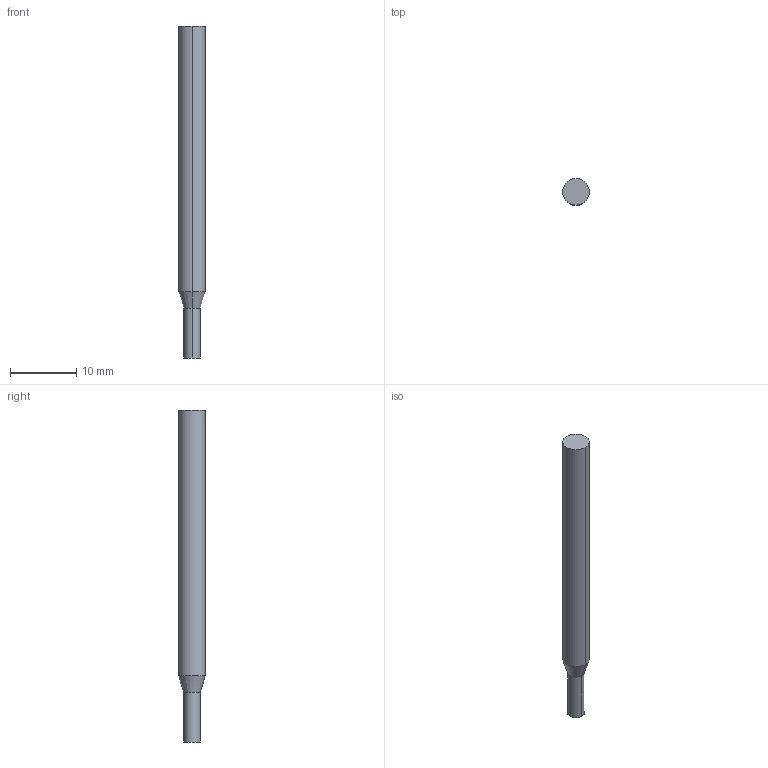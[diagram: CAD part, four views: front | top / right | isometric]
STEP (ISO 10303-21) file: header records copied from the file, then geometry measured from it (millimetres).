
FILE_DESCRIPTION((' '),'2;1');
FILE_NAME( '3MVRM0250AH.stp', '2026-01-21T19:06:12', (' '), ('--- Datakit www.datakit.com---'), ' Datakit CrossCadWare V2025.4 Sep 19 2025', 'Mastercam 2027', ' ');
FILE_SCHEMA(('AUTOMOTIVE_DESIGN { 1 0 10303 214 1 1 1 1 }'));
Length unit declared in the file: inch
Products named in the file (1): 3MVRM0250AH
Bounding box: 4 x 4 x 50 mm (x, y, z)
Volume: 560.9 mm3; surface area: 605.9 mm2
Topology: 1 solids, 1 shells, 8 faces, 14 edges, 8 vertices
Faces by surface type: cylinder 4, plane 2, cone 2
Entity records: 264 total; most frequent: DIRECTION 48, CARTESIAN_POINT 35, ORIENTED_EDGE 28, AXIS2_PLACEMENT_3D 21, EDGE_CURVE 14, VERTEX_POINT 8, CIRCLE 8, EDGE_LOOP 8
